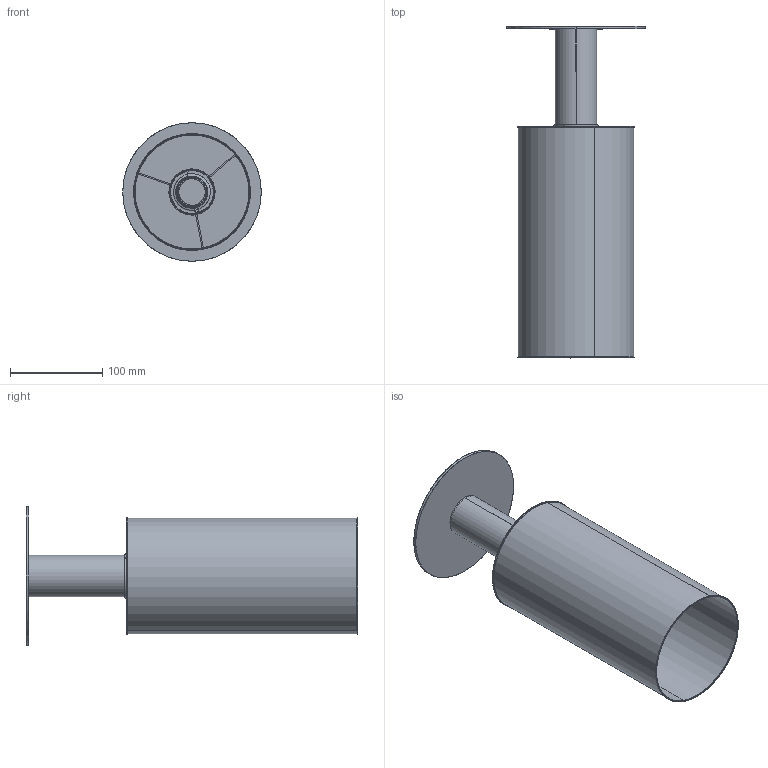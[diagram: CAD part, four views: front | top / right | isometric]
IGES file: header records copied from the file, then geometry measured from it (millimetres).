
Start section: SolidWorks IGES file using analytic representation for surfaces
Global section: file name: C:\Users\Agus\Desktop\AROMAS\PROPUESTAS ENERO 2020\c1286 new\S1286\S1286.IGS; native system: SolidWorks 2018; preprocessor: SolidWorks 2018; author: Agus; date: 200406.140602; units: millimetre
Bounding box: 150 x 359.62 x 150 mm (x, y, z)
Surface area: 279904.5 mm2 (no closed solid volume)
Topology: 0 solids, 0 shells, 91 faces, 1524 edges, 1524 vertices
Faces by surface type: bspline 47, revolution 44
